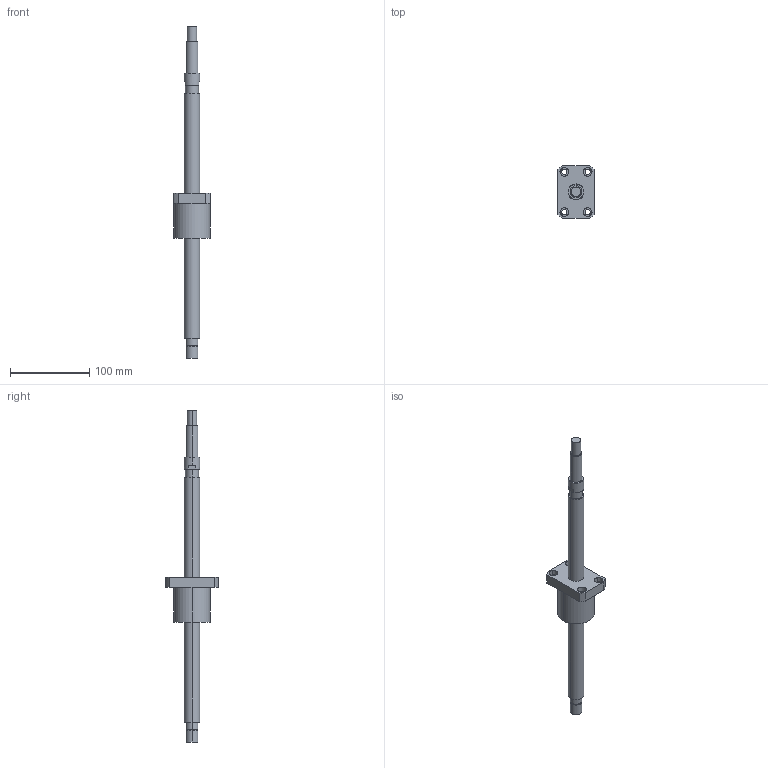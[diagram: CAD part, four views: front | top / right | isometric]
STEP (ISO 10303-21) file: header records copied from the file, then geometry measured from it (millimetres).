
FILE_DESCRIPTION((''),'2;1');
FILE_NAME('R20-20K2-FSC-310-420','2008-04-03T',('wcwu'),(''),'PRO/ENGINEER BY PARAMETRIC TECHNOLOGY CORPORATION, 2005070','PRO/ENGINEER BY PARAMETRIC TECHNOLOGY CORPORATION, 2005070','');
FILE_SCHEMA(('CONFIG_CONTROL_DESIGN'));
Length unit declared in the file: millimetre
Products named in the file (1): R20-20K2-FSC-310-420
Bounding box: 46 x 66 x 420 mm (x, y, z)
Volume: 208374.7 mm3; surface area: 37612 mm2
Topology: 1 solids, 1 shells, 65 faces, 146 edges, 96 vertices
Faces by surface type: cylinder 40, plane 25
Entity records: 1906 total; most frequent: DIRECTION 360, CARTESIAN_POINT 307, ORIENTED_EDGE 292, AXIS2_PLACEMENT_3D 149, EDGE_CURVE 146, VERTEX_POINT 96, EDGE_LOOP 86, CIRCLE 84
